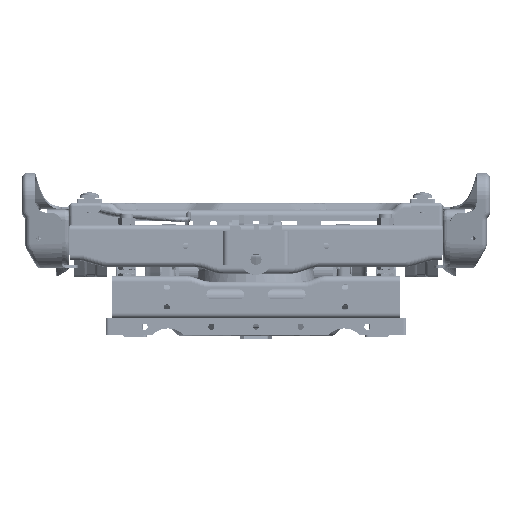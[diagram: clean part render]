
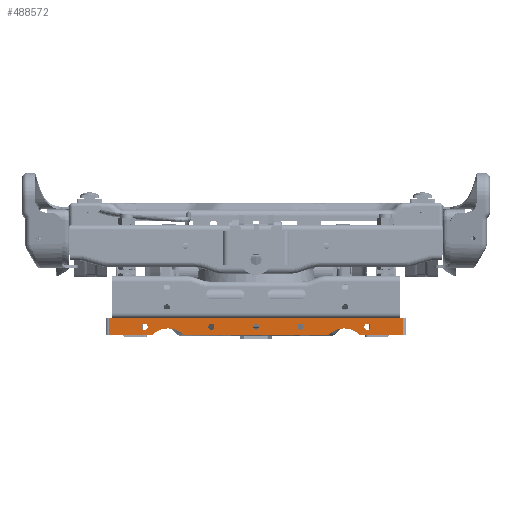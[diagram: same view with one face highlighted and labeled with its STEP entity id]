
A CAD part, left-side view. The second image highlights one B-rep face of the part: STEP entity #488572.
In plain terms, the highlighted planar face has unit normal (-1, 0, 0) as drawn and (1, 0, 0) by its records, which use the part's own axes.
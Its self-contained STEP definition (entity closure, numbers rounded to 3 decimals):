
#488111=VECTOR('Line Direction',#488110,1.) ;
#488335=VECTOR('Line Direction',#488334,1.) ;
#488436=VECTOR('Line Direction',#488435,1.) ;
#488452=VECTOR('Line Direction',#488451,1.) ;
#488459=VECTOR('Line Direction',#488458,1.) ;
#488464=VECTOR('Line Direction',#488463,1.) ;
#488110=DIRECTION('Vector Direction',(0.,-1.,0.)) ;
#488334=DIRECTION('Vector Direction',(0.,1.,0.)) ;
#488430=DIRECTION('Axis2P3D Direction',(1.,0.,0.)) ;
#488431=DIRECTION('Axis2P3D XDirection',(0.,1.,0.)) ;
#488435=DIRECTION('Vector Direction',(0.,-1.,0.)) ;
#488444=DIRECTION('Axis2P3D Direction',(1.,0.,0.)) ;
#488451=DIRECTION('Vector Direction',(0.,-1.,0.)) ;
#488458=DIRECTION('Vector Direction',(0.,0.,1.)) ;
#488463=DIRECTION('Vector Direction',(0.,0.,1.)) ;
#488468=DIRECTION('Axis2P3D Direction',(1.,0.,0.)) ;
#488483=DIRECTION('Axis2P3D Direction',(1.,0.,0.)) ;
#488492=DIRECTION('Axis2P3D Direction',(1.,0.,0.)) ;
#488501=DIRECTION('Axis2P3D Direction',(1.,0.,0.)) ;
#488510=DIRECTION('Axis2P3D Direction',(1.,0.,0.)) ;
#488519=DIRECTION('Axis2P3D Direction',(1.,0.,0.)) ;
#488528=DIRECTION('Axis2P3D Direction',(1.,0.,0.)) ;
#488537=DIRECTION('Axis2P3D Direction',(1.,0.,0.)) ;
#488546=DIRECTION('Axis2P3D Direction',(1.,0.,0.)) ;
#488555=DIRECTION('Axis2P3D Direction',(1.,0.,0.)) ;
#488564=DIRECTION('Axis2P3D Direction',(1.,0.,0.)) ;
#488109=CARTESIAN_POINT('Line Origine',(1107.052,-827.152,248.298)) ;
#488113=CARTESIAN_POINT('Vertex',(1107.052,-846.511,248.298)) ;
#488115=CARTESIAN_POINT('Vertex',(1107.052,-807.794,248.298)) ;
#488330=CARTESIAN_POINT('Vertex',(1107.052,-846.511,263.298)) ;
#488333=CARTESIAN_POINT('Line Origine',(1107.052,-714.511,263.298)) ;
#488337=CARTESIAN_POINT('Vertex',(1107.052,-582.511,263.299)) ;
#488429=CARTESIAN_POINT('Axis2P3D Location',(1107.051,0.,0.)) ;
#488434=CARTESIAN_POINT('Line Origine',(1107.052,-714.511,248.298)) ;
#488438=CARTESIAN_POINT('Vertex',(1107.052,-779.228,248.298)) ;
#488440=CARTESIAN_POINT('Vertex',(1107.052,-649.794,248.298)) ;
#488443=CARTESIAN_POINT('Axis2P3D Location',(1107.052,-635.511,234.298)) ;
#488447=CARTESIAN_POINT('Vertex',(1107.052,-621.228,248.298)) ;
#488450=CARTESIAN_POINT('Line Origine',(1107.052,-601.87,248.299)) ;
#488454=CARTESIAN_POINT('Vertex',(1107.052,-582.511,248.299)) ;
#488457=CARTESIAN_POINT('Line Origine',(1107.052,-582.511,255.799)) ;
#488462=CARTESIAN_POINT('Line Origine',(1107.052,-846.511,255.798)) ;
#488467=CARTESIAN_POINT('Axis2P3D Location',(1107.052,-793.511,234.298)) ;
#488482=CARTESIAN_POINT('Axis2P3D Location',(1107.052,-754.511,255.798)) ;
#488486=CARTESIAN_POINT('Vertex',(1107.052,-751.761,255.798)) ;
#488488=CARTESIAN_POINT('Vertex',(1107.052,-757.261,255.798)) ;
#488491=CARTESIAN_POINT('Axis2P3D Location',(1107.052,-754.511,255.798)) ;
#488500=CARTESIAN_POINT('Axis2P3D Location',(1107.052,-814.511,255.798)) ;
#488504=CARTESIAN_POINT('Vertex',(1107.052,-811.761,255.798)) ;
#488506=CARTESIAN_POINT('Vertex',(1107.052,-817.261,255.798)) ;
#488509=CARTESIAN_POINT('Axis2P3D Location',(1107.052,-814.511,255.798)) ;
#488518=CARTESIAN_POINT('Axis2P3D Location',(1107.052,-674.511,255.798)) ;
#488522=CARTESIAN_POINT('Vertex',(1107.052,-677.261,255.798)) ;
#488524=CARTESIAN_POINT('Vertex',(1107.052,-671.761,255.798)) ;
#488527=CARTESIAN_POINT('Axis2P3D Location',(1107.052,-674.511,255.798)) ;
#488536=CARTESIAN_POINT('Axis2P3D Location',(1107.052,-614.511,255.799)) ;
#488540=CARTESIAN_POINT('Vertex',(1107.052,-617.261,255.798)) ;
#488542=CARTESIAN_POINT('Vertex',(1107.052,-611.761,255.799)) ;
#488545=CARTESIAN_POINT('Axis2P3D Location',(1107.052,-614.511,255.799)) ;
#488554=CARTESIAN_POINT('Axis2P3D Location',(1107.052,-714.511,255.798)) ;
#488558=CARTESIAN_POINT('Vertex',(1107.052,-711.761,255.798)) ;
#488560=CARTESIAN_POINT('Vertex',(1107.052,-717.261,255.798)) ;
#488563=CARTESIAN_POINT('Axis2P3D Location',(1107.052,-714.511,255.798)) ;
#488432=AXIS2_PLACEMENT_3D('Plane Axis2P3D',#488429,#488430,#488431) ;
#488445=AXIS2_PLACEMENT_3D('Circle Axis2P3D',#488443,#488444,$) ;
#488469=AXIS2_PLACEMENT_3D('Circle Axis2P3D',#488467,#488468,$) ;
#488484=AXIS2_PLACEMENT_3D('Circle Axis2P3D',#488482,#488483,$) ;
#488493=AXIS2_PLACEMENT_3D('Circle Axis2P3D',#488491,#488492,$) ;
#488502=AXIS2_PLACEMENT_3D('Circle Axis2P3D',#488500,#488501,$) ;
#488511=AXIS2_PLACEMENT_3D('Circle Axis2P3D',#488509,#488510,$) ;
#488520=AXIS2_PLACEMENT_3D('Circle Axis2P3D',#488518,#488519,$) ;
#488529=AXIS2_PLACEMENT_3D('Circle Axis2P3D',#488527,#488528,$) ;
#488538=AXIS2_PLACEMENT_3D('Circle Axis2P3D',#488536,#488537,$) ;
#488547=AXIS2_PLACEMENT_3D('Circle Axis2P3D',#488545,#488546,$) ;
#488556=AXIS2_PLACEMENT_3D('Circle Axis2P3D',#488554,#488555,$) ;
#488565=AXIS2_PLACEMENT_3D('Circle Axis2P3D',#488563,#488564,$) ;
#488499=FACE_BOUND('',#488496,.T.) ;
#488517=FACE_BOUND('',#488514,.T.) ;
#488535=FACE_BOUND('',#488532,.T.) ;
#488553=FACE_BOUND('',#488550,.T.) ;
#488571=FACE_BOUND('',#488568,.T.) ;
#488117=EDGE_CURVE('',#488114,#488116,#488112,.F.) ;
#488339=EDGE_CURVE('',#488338,#488331,#488336,.F.) ;
#488442=EDGE_CURVE('',#488439,#488441,#488437,.F.) ;
#488449=EDGE_CURVE('',#488448,#488441,#488446,.T.) ;
#488456=EDGE_CURVE('',#488448,#488455,#488453,.F.) ;
#488461=EDGE_CURVE('',#488455,#488338,#488460,.T.) ;
#488466=EDGE_CURVE('',#488331,#488114,#488465,.F.) ;
#488471=EDGE_CURVE('',#488439,#488116,#488470,.T.) ;
#488490=EDGE_CURVE('',#488487,#488489,#488485,.T.) ;
#488495=EDGE_CURVE('',#488489,#488487,#488494,.T.) ;
#488508=EDGE_CURVE('',#488505,#488507,#488503,.T.) ;
#488513=EDGE_CURVE('',#488507,#488505,#488512,.T.) ;
#488526=EDGE_CURVE('',#488523,#488525,#488521,.T.) ;
#488531=EDGE_CURVE('',#488525,#488523,#488530,.T.) ;
#488544=EDGE_CURVE('',#488541,#488543,#488539,.T.) ;
#488549=EDGE_CURVE('',#488543,#488541,#488548,.T.) ;
#488562=EDGE_CURVE('',#488559,#488561,#488557,.T.) ;
#488567=EDGE_CURVE('',#488561,#488559,#488566,.T.) ;
#488433=PLANE('Plane',#488432) ;
#488473=ORIENTED_EDGE('',*,*,#488442,.T.) ;
#488474=ORIENTED_EDGE('',*,*,#488449,.F.) ;
#488475=ORIENTED_EDGE('',*,*,#488456,.T.) ;
#488476=ORIENTED_EDGE('',*,*,#488461,.T.) ;
#488477=ORIENTED_EDGE('',*,*,#488339,.T.) ;
#488478=ORIENTED_EDGE('',*,*,#488466,.T.) ;
#488479=ORIENTED_EDGE('',*,*,#488117,.T.) ;
#488480=ORIENTED_EDGE('',*,*,#488471,.F.) ;
#488497=ORIENTED_EDGE('',*,*,#488490,.F.) ;
#488498=ORIENTED_EDGE('',*,*,#488495,.F.) ;
#488515=ORIENTED_EDGE('',*,*,#488508,.F.) ;
#488516=ORIENTED_EDGE('',*,*,#488513,.F.) ;
#488533=ORIENTED_EDGE('',*,*,#488526,.F.) ;
#488534=ORIENTED_EDGE('',*,*,#488531,.F.) ;
#488551=ORIENTED_EDGE('',*,*,#488544,.F.) ;
#488552=ORIENTED_EDGE('',*,*,#488549,.F.) ;
#488569=ORIENTED_EDGE('',*,*,#488562,.F.) ;
#488570=ORIENTED_EDGE('',*,*,#488567,.F.) ;
#488112=LINE('Line',#488109,#488111) ;
#488336=LINE('Line',#488333,#488335) ;
#488437=LINE('Line',#488434,#488436) ;
#488453=LINE('Line',#488450,#488452) ;
#488460=LINE('Line',#488457,#488459) ;
#488465=LINE('Line',#488462,#488464) ;
#488572=ADVANCED_FACE('\X2\96F64EF651E04F554F53\X0\',(#488481,#488499,#488517,#488535,#488553,#488571),#488433,.T.) ;
#488446=CIRCLE('generated circle',#488445,20.) ;
#488470=CIRCLE('generated circle',#488469,20.) ;
#488485=CIRCLE('generated circle',#488484,2.75) ;
#488494=CIRCLE('generated circle',#488493,2.75) ;
#488503=CIRCLE('generated circle',#488502,2.75) ;
#488512=CIRCLE('generated circle',#488511,2.75) ;
#488521=CIRCLE('generated circle',#488520,2.75) ;
#488530=CIRCLE('generated circle',#488529,2.75) ;
#488539=CIRCLE('generated circle',#488538,2.75) ;
#488548=CIRCLE('generated circle',#488547,2.75) ;
#488557=CIRCLE('generated circle',#488556,2.75) ;
#488566=CIRCLE('generated circle',#488565,2.75) ;
#488114=VERTEX_POINT('',#488113) ;
#488116=VERTEX_POINT('',#488115) ;
#488331=VERTEX_POINT('',#488330) ;
#488338=VERTEX_POINT('',#488337) ;
#488439=VERTEX_POINT('',#488438) ;
#488441=VERTEX_POINT('',#488440) ;
#488448=VERTEX_POINT('',#488447) ;
#488455=VERTEX_POINT('',#488454) ;
#488487=VERTEX_POINT('',#488486) ;
#488489=VERTEX_POINT('',#488488) ;
#488505=VERTEX_POINT('',#488504) ;
#488507=VERTEX_POINT('',#488506) ;
#488523=VERTEX_POINT('',#488522) ;
#488525=VERTEX_POINT('',#488524) ;
#488541=VERTEX_POINT('',#488540) ;
#488543=VERTEX_POINT('',#488542) ;
#488559=VERTEX_POINT('',#488558) ;
#488561=VERTEX_POINT('',#488560) ;
#488472=EDGE_LOOP('',(#488473,#488474,#488475,#488476,#488477,#488478,#488479,#488480)) ;
#488496=EDGE_LOOP('',(#488497,#488498)) ;
#488514=EDGE_LOOP('',(#488515,#488516)) ;
#488532=EDGE_LOOP('',(#488533,#488534)) ;
#488550=EDGE_LOOP('',(#488551,#488552)) ;
#488568=EDGE_LOOP('',(#488569,#488570)) ;
#488481=FACE_OUTER_BOUND('',#488472,.T.) ;
